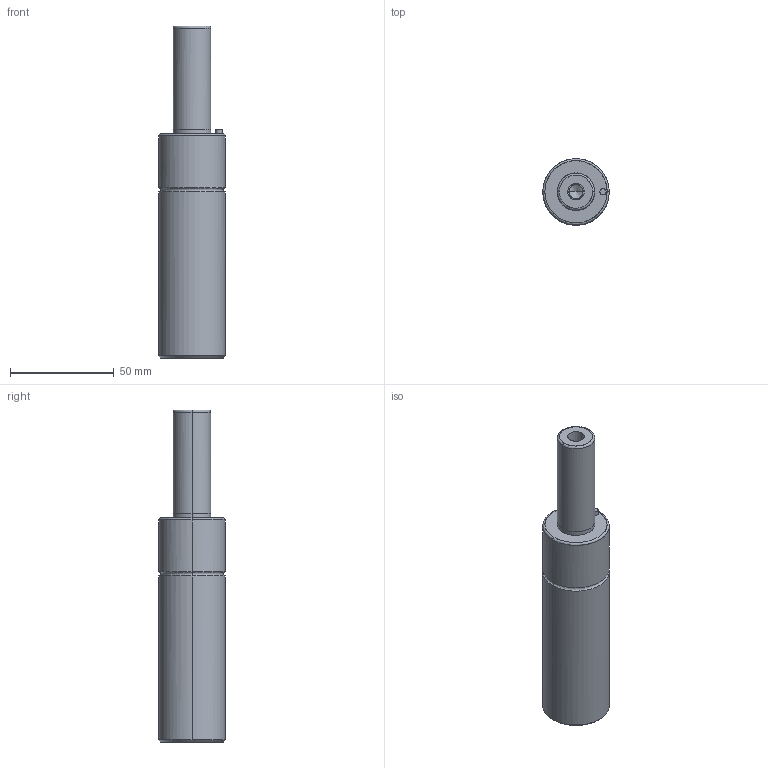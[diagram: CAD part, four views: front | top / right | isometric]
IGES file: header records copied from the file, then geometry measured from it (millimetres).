
Global section: file name: E:\UnigraphicsGraphicData\MISUMI_PRESS-PARTS\IGES\3d_gsm32-50_03928_r00.igs; native system: NX V5.0; preprocessor: UGS NX IGES V5.0; author: MISUMI; date: 20110105.160810; units: millimetre
Bounding box: 32 x 31.9 x 160 mm (x, y, z)
Surface area: 16263.9 mm2 (no closed solid volume)
Topology: 0 solids, 0 shells, 50 faces, 328 edges, 320 vertices
Faces by surface type: bspline 50
